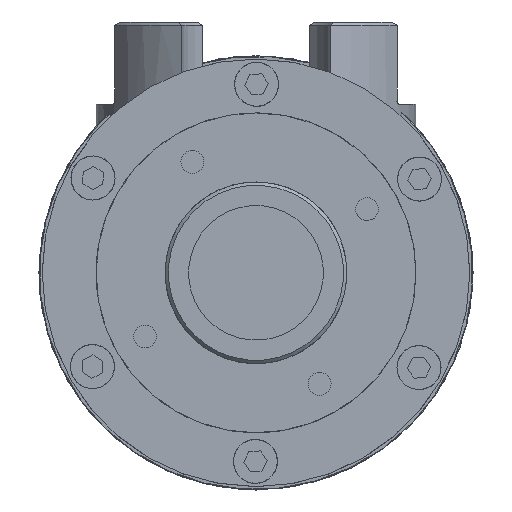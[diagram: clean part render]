
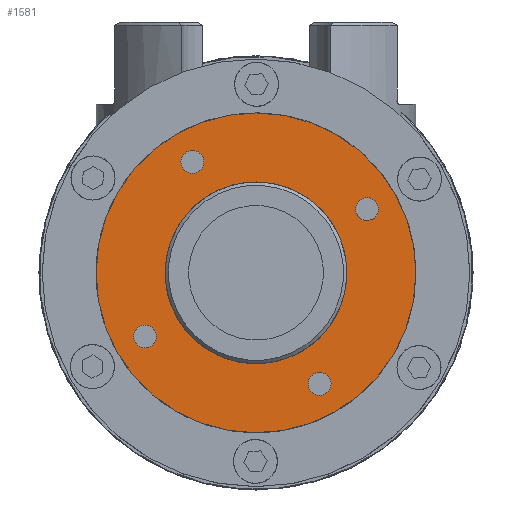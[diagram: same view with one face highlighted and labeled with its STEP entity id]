
A CAD part, left-side view. The second image highlights one B-rep face of the part: STEP entity #1581.
In plain terms, the highlighted planar face has unit normal (-1, 0, 0) as drawn and (0, -1, 0) by its records, which use the part's own axes.
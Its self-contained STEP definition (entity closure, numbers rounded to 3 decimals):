
#1581 = ADVANCED_FACE( '', ( #3138, #3139, #3140, #3141, #3142, #3143 ), #3144, .F. );
#3138 = FACE_OUTER_BOUND( '', #4383, .T. );
#3139 = FACE_BOUND( '', #4384, .T. );
#3140 = FACE_BOUND( '', #4385, .T. );
#3141 = FACE_BOUND( '', #4386, .T. );
#3142 = FACE_BOUND( '', #4387, .T. );
#3143 = FACE_BOUND( '', #4388, .T. );
#3144 = PLANE( '', #4389 );
#4383 = EDGE_LOOP( '', ( #7116 ) );
#4384 = EDGE_LOOP( '', ( #7117 ) );
#4385 = EDGE_LOOP( '', ( #7118 ) );
#4386 = EDGE_LOOP( '', ( #7119 ) );
#4387 = EDGE_LOOP( '', ( #7120 ) );
#4388 = EDGE_LOOP( '', ( #7121 ) );
#4389 = AXIS2_PLACEMENT_3D( '', #7122, #7123, #7124 );
#7116 = ORIENTED_EDGE( '', *, *, #8424, .T. );
#7117 = ORIENTED_EDGE( '', *, *, #8425, .F. );
#7118 = ORIENTED_EDGE( '', *, *, #8434, .F. );
#7119 = ORIENTED_EDGE( '', *, *, #8432, .F. );
#7120 = ORIENTED_EDGE( '', *, *, #8431, .F. );
#7121 = ORIENTED_EDGE( '', *, *, #8433, .F. );
#7122 = CARTESIAN_POINT( '', ( 0., 0., 47.5 ) );
#7123 = DIRECTION( '', ( 0., 1., 0. ) );
#7124 = DIRECTION( '', ( 1., 0., 0. ) );
#8424 = EDGE_CURVE( '', #9878, #9878, #9879, .T. );
#8425 = EDGE_CURVE( '', #9880, #9880, #9881, .T. );
#8431 = EDGE_CURVE( '', #9892, #9892, #9893, .T. );
#8432 = EDGE_CURVE( '', #9894, #9894, #9895, .T. );
#8433 = EDGE_CURVE( '', #9896, #9896, #9897, .T. );
#8434 = EDGE_CURVE( '', #9898, #9898, #9899, .T. );
#9878 = VERTEX_POINT( '', #11854 );
#9879 = CIRCLE( '', #11855, 47.5 );
#9880 = VERTEX_POINT( '', #11856 );
#9881 = CIRCLE( '', #11857, 3.4 );
#9892 = VERTEX_POINT( '', #11868 );
#9893 = CIRCLE( '', #11869, 3.4 );
#9894 = VERTEX_POINT( '', #11870 );
#9895 = CIRCLE( '', #11871, 3.4 );
#9896 = VERTEX_POINT( '', #11872 );
#9897 = CIRCLE( '', #11873, 27. );
#9898 = VERTEX_POINT( '', #11874 );
#9899 = CIRCLE( '', #11875, 3.4 );
#11854 = CARTESIAN_POINT( '', ( 0., 0., -47.5 ) );
#11855 = AXIS2_PLACEMENT_3D( '', #13308, #13309, #13310 );
#11856 = CARTESIAN_POINT( '', ( -38., 0., 3.4 ) );
#11857 = AXIS2_PLACEMENT_3D( '', #13311, #13312, #13313 );
#11868 = CARTESIAN_POINT( '', ( 3.4, 0., 38. ) );
#11869 = AXIS2_PLACEMENT_3D( '', #13329, #13330, #13331 );
#11870 = CARTESIAN_POINT( '', ( 38., 0., -3.4 ) );
#11871 = AXIS2_PLACEMENT_3D( '', #13332, #13333, #13334 );
#11872 = CARTESIAN_POINT( '', ( 0., 0., -27. ) );
#11873 = AXIS2_PLACEMENT_3D( '', #13335, #13336, #13337 );
#11874 = CARTESIAN_POINT( '', ( -3.4, 0., -38. ) );
#11875 = AXIS2_PLACEMENT_3D( '', #13338, #13339, #13340 );
#13308 = CARTESIAN_POINT( '', ( 0., 0., 0. ) );
#13309 = DIRECTION( '', ( 0., -1., 0. ) );
#13310 = DIRECTION( '', ( 0., 0., -1. ) );
#13311 = CARTESIAN_POINT( '', ( -38., 0., 0. ) );
#13312 = DIRECTION( '', ( 0., -1., 0. ) );
#13313 = DIRECTION( '', ( 0., 0., 1. ) );
#13329 = CARTESIAN_POINT( '', ( 0., 0., 38. ) );
#13330 = DIRECTION( '', ( 0., -1., 0. ) );
#13331 = DIRECTION( '', ( 1., 0., 0. ) );
#13332 = CARTESIAN_POINT( '', ( 38., 0., 0. ) );
#13333 = DIRECTION( '', ( 0., -1., 0. ) );
#13334 = DIRECTION( '', ( 0., 0., -1. ) );
#13335 = CARTESIAN_POINT( '', ( 0., 0., 0. ) );
#13336 = DIRECTION( '', ( 0., -1., 0. ) );
#13337 = DIRECTION( '', ( 0., 0., -1. ) );
#13338 = CARTESIAN_POINT( '', ( 0., 0., -38. ) );
#13339 = DIRECTION( '', ( 0., -1., 0. ) );
#13340 = DIRECTION( '', ( -1., 0., 0. ) );
